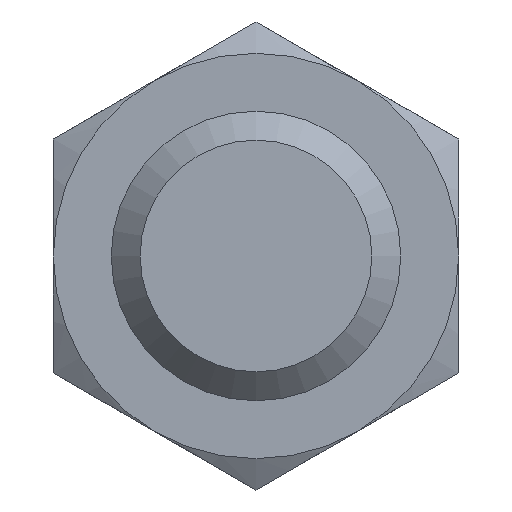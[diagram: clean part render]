
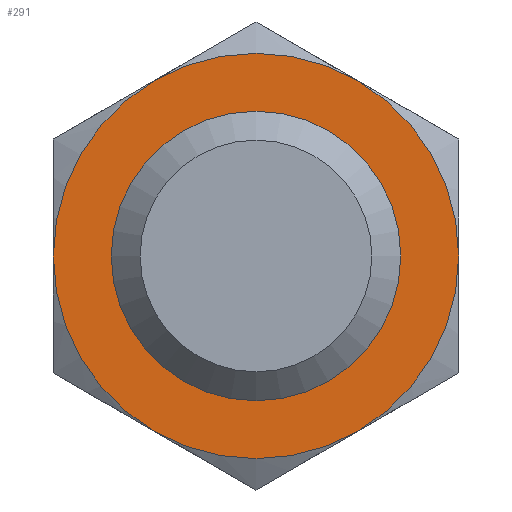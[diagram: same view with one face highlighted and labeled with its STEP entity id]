
A CAD part, left-side view. The second image highlights one B-rep face of the part: STEP entity #291.
In plain terms, the highlighted planar face has unit normal (-1, 0, 0).
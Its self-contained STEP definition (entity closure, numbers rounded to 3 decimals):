
#291=ADVANCED_FACE('',(#570,#572),#574,.T.);
#570=FACE_BOUND('',#571,.T.);
#571=EDGE_LOOP('',(#737,#738,#739,#740,#741));
#572=FACE_BOUND('',#573,.T.);
#573=EDGE_LOOP('',(#742));
#574=PLANE('',#575);
#575=AXIS2_PLACEMENT_3D('',#576,#577,#578);
#576=CARTESIAN_POINT('',(-15.,0.,0.));
#577=DIRECTION('',(-1.,0.,0.));
#578=DIRECTION('',(0.,0.,-1.));
#737=ORIENTED_EDGE('',*,*,#805,.T.);
#738=ORIENTED_EDGE('',*,*,#803,.T.);
#739=ORIENTED_EDGE('',*,*,#802,.T.);
#740=ORIENTED_EDGE('',*,*,#804,.T.);
#741=ORIENTED_EDGE('',*,*,#806,.T.);
#742=ORIENTED_EDGE('',*,*,#807,.F.);
#802=EDGE_CURVE('',#868,#875,#894,.F.);
#803=EDGE_CURVE('',#878,#868,#895,.F.);
#804=EDGE_CURVE('',#875,#888,#896,.F.);
#805=EDGE_CURVE('',#883,#878,#897,.F.);
#806=EDGE_CURVE('',#888,#883,#898,.F.);
#807=EDGE_CURVE('',#899,#899,#900,.T.);
#868=VERTEX_POINT('',#1348);
#875=VERTEX_POINT('',#1418);
#878=VERTEX_POINT('',#1473);
#883=VERTEX_POINT('',#1532);
#888=VERTEX_POINT('',#1591);
#894=CIRCLE('',#1693,7.);
#895=CIRCLE('',#1697,7.);
#896=CIRCLE('',#1701,7.);
#897=CIRCLE('',#1705,7.);
#898=CIRCLE('',#1709,7.);
#899=VERTEX_POINT('',#1713);
#900=CIRCLE('',#1714,4.4);
#1348=CARTESIAN_POINT('',(-15.,-7.,0.));
#1418=CARTESIAN_POINT('',(-15.,-3.5,6.062));
#1473=CARTESIAN_POINT('',(-15.,-3.5,-6.062));
#1532=CARTESIAN_POINT('',(-15.,3.5,-6.062));
#1591=CARTESIAN_POINT('',(-15.,7.,0.));
#1693=AXIS2_PLACEMENT_3D('',#1694,#1695,#1696);
#1694=CARTESIAN_POINT('',(-15.,0.,0.));
#1695=DIRECTION('',(1.,0.,0.));
#1696=DIRECTION('',(0.,-0.5,0.866));
#1697=AXIS2_PLACEMENT_3D('',#1698,#1699,#1700);
#1698=CARTESIAN_POINT('',(-15.,0.,0.));
#1699=DIRECTION('',(1.,0.,0.));
#1700=DIRECTION('',(0.,-1.,0.));
#1701=AXIS2_PLACEMENT_3D('',#1702,#1703,#1704);
#1702=CARTESIAN_POINT('',(-15.,0.,0.));
#1703=DIRECTION('',(1.,0.,0.));
#1704=DIRECTION('',(0.,1.,0.));
#1705=AXIS2_PLACEMENT_3D('',#1706,#1707,#1708);
#1706=CARTESIAN_POINT('',(-15.,0.,0.));
#1707=DIRECTION('',(1.,0.,0.));
#1708=DIRECTION('',(0.,-0.5,-0.866));
#1709=AXIS2_PLACEMENT_3D('',#1710,#1711,#1712);
#1710=CARTESIAN_POINT('',(-15.,0.,0.));
#1711=DIRECTION('',(1.,0.,0.));
#1712=DIRECTION('',(0.,0.5,-0.866));
#1713=CARTESIAN_POINT('',(-15.,4.4,0.));
#1714=AXIS2_PLACEMENT_3D('',#1715,#1716,#1717);
#1715=CARTESIAN_POINT('',(-15.,0.,0.));
#1716=DIRECTION('',(-1.,0.,0.));
#1717=DIRECTION('',(0.,1.,0.));
